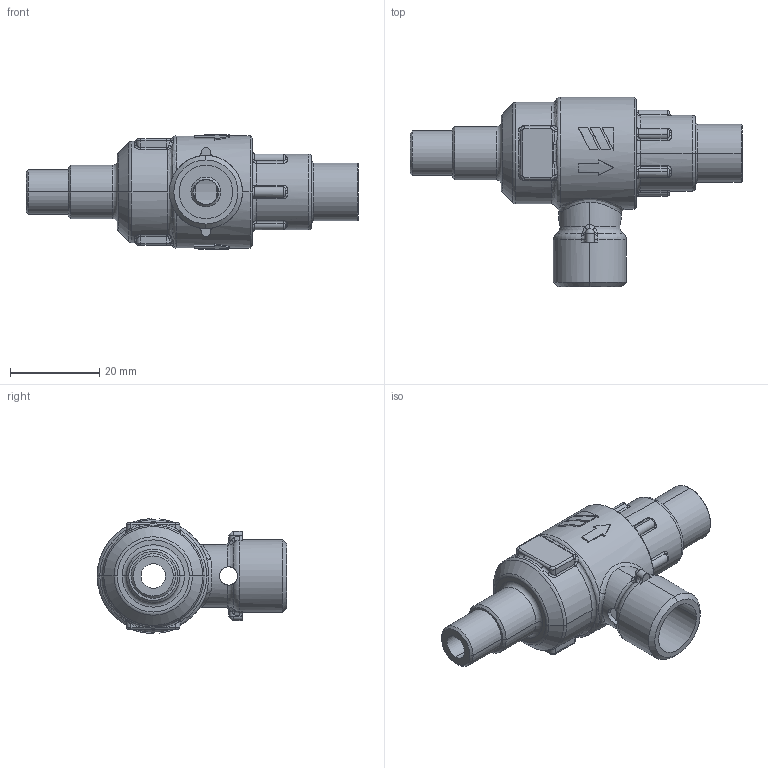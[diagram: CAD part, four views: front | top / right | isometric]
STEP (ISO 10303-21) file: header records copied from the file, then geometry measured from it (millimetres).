
FILE_DESCRIPTION (( 'STEP AP214' ), '1' );
FILE_NAME ('2230839.STEP', '2017-12-14T11:02:52', ( '' ), ( '' ), 'SwSTEP 2.0', 'SolidWorks 2017', '' );
FILE_SCHEMA (( 'AUTOMOTIVE_DESIGN' ));
Length unit declared in the file: millimetre
Products named in the file (3): 2230839; 22010130; 22012100
Assembly tree (2 placements, depth 2):
  2230839
    22010130
    22012100
Bounding box: 74.55 x 42.6 x 25.79 mm (x, y, z)
Volume: 11050.2 mm3; surface area: 11353.1 mm2
Topology: 2 solids, 2 shells, 432 faces, 1002 edges, 592 vertices
Faces by surface type: cylinder 137, bspline 89, torus 78, plane 76, cone 50, sphere 2
Entity records: 15527 total; most frequent: CARTESIAN_POINT 5996, ORIENTED_EDGE 2000, DIRECTION 1927, EDGE_CURVE 1000, AXIS2_PLACEMENT_3D 823, VERTEX_POINT 592, CIRCLE 475, EDGE_LOOP 462
